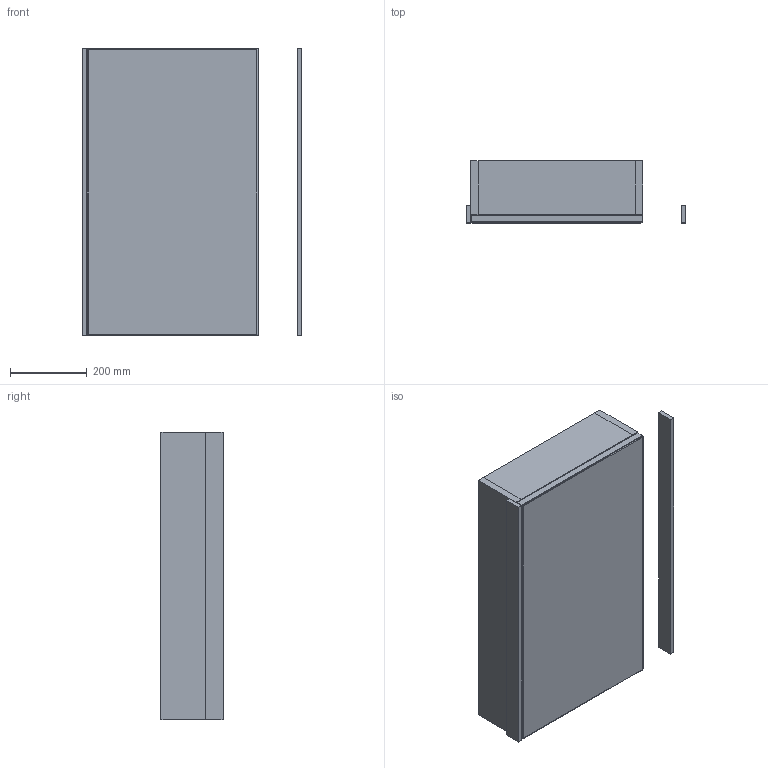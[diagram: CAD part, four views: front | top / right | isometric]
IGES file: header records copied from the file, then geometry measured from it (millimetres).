
Start section: Data from Parasolid IGES Translator 19.0.9, Copyright(c) 2006 Siemens PL M Software. All Rights Reserved.
Global section: file name: noorth-mirror-H 75 D 4,5-16 W 45_9128.igs; native system: By Siemens PLM Incorporated; preprocessor: XPlus GENERIC/IGES 19.0.9; author: Noname; organization: Noname; date: 20200519.100650; units: metre
Bounding box: 573.82 x 162 x 750 mm (x, y, z)
Volume: 15019957 mm3; surface area: 3151863 mm2
Topology: 12 solids, 12 shells, 136 faces, 264 edges, 152 vertices
Faces by surface type: plane 136
